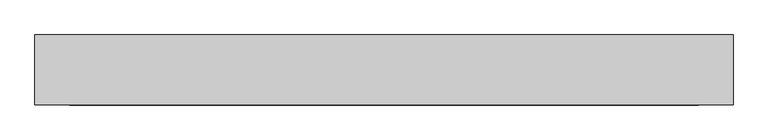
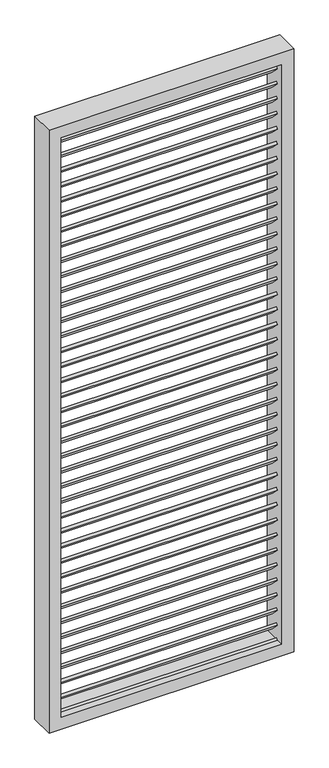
"""IFC4 building model written with IfcOpenShell, lengths in millimetres: plate geometry, 幕墙嵌板-百叶 : 幕墙嵌板-百叶."""

from ifc_helpers import new_model, si_unit, frame, origin, place, context, project, spatial, polyline, outline, extrude, source, transform, mapped, element, save


def plate_ee00122f(model_context):
    return source(origin(), model_context, "Body", "SweptSolid", [
        extrude(outline(polyline([(0.0, -50.0), (0.0, 0.0), (899.932207, 0.0), (899.932207, -50.0), (0.0, -50.0)])), frame((449.9661035, -21.2132034, 2514.2703408), z_axis=(0.0, 0.7071067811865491, 0.7071067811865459), x_axis=(-1.0, 0.0, 0.0)), (0.0, 0.0, 1.0), 10.0),
        extrude(outline(polyline([(0.0, -50.0), (0.0, 0.0), (899.932207, 0.0), (899.932207, -50.0), (0.0, -50.0)])), frame((449.9661035, -21.2132034, 2449.3985459), z_axis=(0.0, 0.7071067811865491, 0.7071067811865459), x_axis=(-1.0, 0.0, 0.0)), (0.0, 0.0, 1.0), 10.0),
        extrude(outline(polyline([(0.0, -50.0), (0.0, 0.0), (899.932207, 0.0), (899.932207, -50.0), (0.0, -50.0)])), frame((449.9661035, -21.2132034, 2384.526751), z_axis=(0.0, 0.7071067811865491, 0.7071067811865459), x_axis=(-1.0, 0.0, 0.0)), (0.0, 0.0, 1.0), 10.0),
        extrude(outline(polyline([(0.0, -49.9999999), (0.0, 0.0), (899.932207, 0.0), (899.932207, -49.9999999), (0.0, -49.9999999)])), frame((449.9661035, -21.2132034, 2319.6549561), z_axis=(0.0, 0.7071067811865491, 0.7071067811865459), x_axis=(-1.0, 0.0, 0.0)), (0.0, 0.0, 1.0), 10.0),
        extrude(outline(polyline([(0.0, -50.0), (0.0, 0.0), (899.932207, 0.0), (899.932207, -50.0), (0.0, -50.0)])), frame((449.9661035, -21.2132034, 2254.7831613), z_axis=(0.0, 0.7071067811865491, 0.7071067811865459), x_axis=(-1.0, 0.0, 0.0)), (0.0, 0.0, 1.0), 10.0),
        extrude(outline(polyline([(0.0, -50.0), (0.0, 0.0), (899.932207, 0.0), (899.932207, -50.0), (0.0, -50.0)])), frame((449.9661035, -21.2132034, 2189.9113664), z_axis=(0.0, 0.7071067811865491, 0.7071067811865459), x_axis=(-1.0, 0.0, 0.0)), (0.0, 0.0, 1.0), 10.0),
        extrude(outline(polyline([(0.0, -49.9999999), (0.0, 0.0), (899.932207, 0.0), (899.932207, -49.9999999), (0.0, -49.9999999)])), frame((449.9661035, -21.2132034, 2125.0395715), z_axis=(0.0, 0.7071067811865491, 0.7071067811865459), x_axis=(-1.0, 0.0, 0.0)), (0.0, 0.0, 1.0), 10.0),
        extrude(outline(polyline([(0.0, -49.9999999), (0.0, 0.0), (899.932207, 0.0), (899.932207, -49.9999999), (0.0, -49.9999999)])), frame((449.9661035, -21.2132034, 2060.1677766), z_axis=(0.0, 0.7071067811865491, 0.7071067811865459), x_axis=(-1.0, 0.0, 0.0)), (0.0, 0.0, 1.0), 10.0),
        extrude(outline(polyline([(0.0, -50.0), (0.0, 0.0), (899.932207, 0.0), (899.932207, -50.0), (0.0, -50.0)])), frame((449.9661035, -21.2132034, 1995.2959818), z_axis=(0.0, 0.7071067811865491, 0.7071067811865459), x_axis=(-1.0, 0.0, 0.0)), (0.0, 0.0, 1.0), 10.0),
        extrude(outline(polyline([(0.0, -50.0), (0.0, 0.0), (899.932207, 0.0), (899.932207, -50.0), (0.0, -50.0)])), frame((449.9661035, -21.2132034, 1930.4241869), z_axis=(0.0, 0.7071067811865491, 0.7071067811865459), x_axis=(-1.0, 0.0, 0.0)), (0.0, 0.0, 1.0), 10.0),
        extrude(outline(polyline([(0.0, -49.9999999), (0.0, 0.0), (899.932207, 0.0), (899.932207, -49.9999999), (0.0, -49.9999999)])), frame((449.9661035, -21.2132034, 1865.552392), z_axis=(0.0, 0.7071067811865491, 0.7071067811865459), x_axis=(-1.0, 0.0, 0.0)), (0.0, 0.0, 1.0), 10.0),
        extrude(outline(polyline([(0.0, -50.0), (0.0, 0.0), (899.932207, 0.0), (899.932207, -50.0), (0.0, -50.0)])), frame((449.9661035, -21.2132034, 1800.6805972), z_axis=(0.0, 0.7071067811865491, 0.7071067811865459), x_axis=(-1.0, 0.0, 0.0)), (0.0, 0.0, 1.0), 10.0),
        extrude(outline(polyline([(0.0, -50.0), (0.0, 0.0), (899.932207, 0.0), (899.932207, -50.0), (0.0, -50.0)])), frame((449.9661035, -21.2132034, 1735.8088023), z_axis=(0.0, 0.7071067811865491, 0.7071067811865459), x_axis=(-1.0, 0.0, 0.0)), (0.0, 0.0, 1.0), 10.0),
        extrude(outline(polyline([(0.0, -49.9999999), (0.0, 0.0), (899.932207, 0.0), (899.932207, -49.9999999), (0.0, -49.9999999)])), frame((449.9661035, -21.2132034, 1670.9370074), z_axis=(0.0, 0.7071067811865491, 0.7071067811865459), x_axis=(-1.0, 0.0, 0.0)), (0.0, 0.0, 1.0), 10.0),
        extrude(outline(polyline([(0.0, -49.9999999), (0.0, 0.0), (899.932207, 0.0), (899.932207, -49.9999999), (0.0, -49.9999999)])), frame((449.9661035, -21.2132034, 1606.0652125), z_axis=(0.0, 0.7071067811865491, 0.7071067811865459), x_axis=(-1.0, 0.0, 0.0)), (0.0, 0.0, 1.0), 10.0),
        extrude(outline(polyline([(0.0, -50.0), (0.0, 0.0), (899.932207, 0.0), (899.932207, -50.0), (0.0, -50.0)])), frame((449.9661035, -21.2132034, 1541.1934177), z_axis=(0.0, 0.7071067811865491, 0.7071067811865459), x_axis=(-1.0, 0.0, 0.0)), (0.0, 0.0, 1.0), 10.0),
        extrude(outline(polyline([(0.0, -50.0), (0.0, 0.0), (899.932207, 0.0), (899.932207, -50.0), (0.0, -50.0)])), frame((449.9661035, -21.2132034, 1476.3216228), z_axis=(0.0, 0.7071067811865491, 0.7071067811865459), x_axis=(-1.0, 0.0, 0.0)), (0.0, 0.0, 1.0), 10.0),
        extrude(outline(polyline([(0.0, -49.9999999), (0.0, 0.0), (899.932207, 0.0), (899.932207, -49.9999999), (0.0, -49.9999999)])), frame((449.9661035, -21.2132034, 1411.4498279), z_axis=(0.0, 0.7071067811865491, 0.7071067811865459), x_axis=(-1.0, 0.0, 0.0)), (0.0, 0.0, 1.0), 10.0),
        extrude(outline(polyline([(0.0, -50.0), (0.0, 0.0), (899.932207, 0.0), (899.932207, -50.0), (0.0, -50.0)])), frame((449.9661035, -21.2132034, 1346.5780331), z_axis=(0.0, 0.7071067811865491, 0.7071067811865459), x_axis=(-1.0, 0.0, 0.0)), (0.0, 0.0, 1.0), 10.0),
        extrude(outline(polyline([(0.0, -50.0), (0.0, 0.0), (899.932207, 0.0), (899.932207, -50.0), (0.0, -50.0)])), frame((449.9661035, -21.2132034, 1281.7062382), z_axis=(0.0, 0.7071067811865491, 0.7071067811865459), x_axis=(-1.0, 0.0, 0.0)), (0.0, 0.0, 1.0), 10.0),
        extrude(outline(polyline([(0.0, -49.9999999), (0.0, 0.0), (899.932207, 0.0), (899.932207, -49.9999999), (0.0, -49.9999999)])), frame((449.9661035, -21.2132034, 1216.8344433), z_axis=(0.0, 0.7071067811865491, 0.7071067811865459), x_axis=(-1.0, 0.0, 0.0)), (0.0, 0.0, 1.0), 10.0),
        extrude(outline(polyline([(0.0, -49.9999999), (0.0, 0.0), (899.932207, 0.0), (899.932207, -49.9999999), (0.0, -49.9999999)])), frame((449.9661035, -21.2132034, 1151.9626484), z_axis=(0.0, 0.7071067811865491, 0.7071067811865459), x_axis=(-1.0, 0.0, 0.0)), (0.0, 0.0, 1.0), 10.0),
        extrude(outline(polyline([(0.0, -50.0), (0.0, 0.0), (899.932207, 0.0), (899.932207, -50.0), (0.0, -50.0)])), frame((449.9661035, -21.2132034, 1087.0908536), z_axis=(0.0, 0.7071067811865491, 0.7071067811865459), x_axis=(-1.0, 0.0, 0.0)), (0.0, 0.0, 1.0), 10.0),
        extrude(outline(polyline([(0.0, -50.0), (0.0, 0.0), (899.932207, 0.0), (899.932207, -50.0), (0.0, -50.0)])), frame((449.9661035, -21.2132034, 1022.2190587), z_axis=(0.0, 0.7071067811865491, 0.7071067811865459), x_axis=(-1.0, 0.0, 0.0)), (0.0, 0.0, 1.0), 10.0),
        extrude(outline(polyline([(0.0, -49.9999999), (0.0, 0.0), (899.932207, 0.0), (899.932207, -49.9999999), (0.0, -49.9999999)])), frame((449.9661035, -21.2132034, 957.3472638), z_axis=(0.0, 0.7071067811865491, 0.7071067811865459), x_axis=(-1.0, 0.0, 0.0)), (0.0, 0.0, 1.0), 10.0),
        extrude(outline(polyline([(0.0, -50.0), (0.0, 0.0), (899.932207, 0.0), (899.932207, -50.0), (0.0, -50.0)])), frame((449.9661035, -21.2132034, 892.475469), z_axis=(0.0, 0.7071067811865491, 0.7071067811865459), x_axis=(-1.0, 0.0, 0.0)), (0.0, 0.0, 1.0), 10.0),
        extrude(outline(polyline([(0.0, -50.0), (0.0, 0.0), (899.932207, 0.0), (899.932207, -50.0), (0.0, -50.0)])), frame((449.9661035, -21.2132034, 827.6036741), z_axis=(0.0, 0.7071067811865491, 0.7071067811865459), x_axis=(-1.0, 0.0, 0.0)), (0.0, 0.0, 1.0), 10.0),
        extrude(outline(polyline([(0.0, -49.9999999), (0.0, 0.0), (899.932207, 0.0), (899.932207, -49.9999999), (0.0, -49.9999999)])), frame((449.9661035, -21.2132034, 762.7318792), z_axis=(0.0, 0.7071067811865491, 0.7071067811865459), x_axis=(-1.0, 0.0, 0.0)), (0.0, 0.0, 1.0), 10.0),
        extrude(outline(polyline([(0.0, -49.9999999), (0.0, 0.0), (899.932207, 0.0), (899.932207, -49.9999999), (0.0, -49.9999999)])), frame((449.9661035, -21.2132034, 697.8600843), z_axis=(0.0, 0.7071067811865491, 0.7071067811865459), x_axis=(-1.0, 0.0, 0.0)), (0.0, 0.0, 1.0), 10.0),
        extrude(outline(polyline([(0.0, -50.0), (0.0, 0.0), (899.932207, 0.0), (899.932207, -50.0), (0.0, -50.0)])), frame((449.9661035, -21.2132034, 632.9882895), z_axis=(0.0, 0.7071067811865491, 0.7071067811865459), x_axis=(-1.0, 0.0, 0.0)), (0.0, 0.0, 1.0), 10.0),
        extrude(outline(polyline([(0.0, -50.0), (0.0, 0.0), (899.932207, 0.0), (899.932207, -50.0), (0.0, -50.0)])), frame((449.9661035, -21.2132034, 568.1164946), z_axis=(0.0, 0.7071067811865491, 0.7071067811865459), x_axis=(-1.0, 0.0, 0.0)), (0.0, 0.0, 1.0), 10.0),
        extrude(outline(polyline([(0.0, -49.9999999), (0.0, 0.0), (899.932207, 0.0), (899.932207, -49.9999999), (0.0, -49.9999999)])), frame((449.9661035, -21.2132034, 503.2446997), z_axis=(0.0, 0.7071067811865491, 0.7071067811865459), x_axis=(-1.0, 0.0, 0.0)), (0.0, 0.0, 1.0), 10.0),
        extrude(outline(polyline([(0.0, -50.0), (0.0, 0.0), (899.932207, 0.0), (899.932207, -50.0), (0.0, -50.0)])), frame((449.9661035, -21.2132034, 438.3729049), z_axis=(0.0, 0.7071067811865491, 0.7071067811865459), x_axis=(-1.0, 0.0, 0.0)), (0.0, 0.0, 1.0), 10.0),
        extrude(outline(polyline([(0.0, -50.0), (0.0, 0.0), (899.932207, 0.0), (899.932207, -50.0), (0.0, -50.0)])), frame((449.9661035, -21.2132034, 373.50111), z_axis=(0.0, 0.7071067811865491, 0.7071067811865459), x_axis=(-1.0, 0.0, 0.0)), (0.0, 0.0, 1.0), 10.0),
        extrude(outline(polyline([(0.0, -49.9999999), (0.0, 0.0), (899.932207, 0.0), (899.932207, -49.9999999), (0.0, -49.9999999)])), frame((449.9661035, -21.2132034, 308.6293151), z_axis=(0.0, 0.7071067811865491, 0.7071067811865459), x_axis=(-1.0, 0.0, 0.0)), (0.0, 0.0, 1.0), 10.0),
        extrude(outline(polyline([(0.0, -49.9999999), (0.0, 0.0), (899.932207, 0.0), (899.932207, -49.9999999), (0.0, -49.9999999)])), frame((449.9661035, -21.2132034, 243.7575202), z_axis=(0.0, 0.7071067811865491, 0.7071067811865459), x_axis=(-1.0, 0.0, 0.0)), (0.0, 0.0, 1.0), 10.0),
        extrude(outline(polyline([(0.0, -50.0), (0.0, 0.0), (899.932207, 0.0), (899.932207, -50.0), (0.0, -50.0)])), frame((449.9661035, -21.2132034, 178.8857254), z_axis=(0.0, 0.7071067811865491, 0.7071067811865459), x_axis=(-1.0, 0.0, 0.0)), (0.0, 0.0, 1.0), 10.0),
        extrude(outline(polyline([(0.0, -50.0), (0.0, 0.0), (899.932207, 0.0), (899.932207, -50.0), (0.0, -50.0)])), frame((449.9661035, -21.2132034, 114.0139305), z_axis=(0.0, 0.7071067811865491, 0.7071067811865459), x_axis=(-1.0, 0.0, 0.0)), (0.0, 0.0, 1.0), 10.0),
        extrude(outline(polyline([(0.0, -49.9999999), (0.0, 0.0), (899.932207, 0.0), (899.932207, -49.9999999), (0.0, -49.9999999)])), frame((449.9661035, -21.2132034, 2579.1421356), z_axis=(0.0, 0.7071067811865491, 0.7071067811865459), x_axis=(-1.0, 0.0, 0.0)), (0.0, 0.0, 1.0), 10.0),
        extrude(outline(polyline([(0.0, -49.9999999), (0.0, 0.0), (899.932207, 0.0), (899.932207, -49.9999999), (0.0, -49.9999999)])), frame((449.9661035, -21.2132034, 49.1421356), z_axis=(0.0, 0.7071067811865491, 0.7071067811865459), x_axis=(-1.0, 0.0, 0.0)), (0.0, 0.0, 1.0), 10.0),
        extrude(outline(polyline([(0.0, -499.9661035), (0.0, 499.9661035), (2600.0, 499.9661035), (2600.0, -499.9661035), (0.0, -499.9661035)]), holes=[polyline([(2550.0, -449.9661035), (2550.0, 449.9661035), (50.0, 449.9661035), (50.0, -449.9661035), (2550.0, -449.9661035)])]), frame((0.0, -50.0, 0.0), z_axis=(0.0, 1.0, 0.0), x_axis=(0.0, 0.0, 1.0)), (0.0, 0.0, 1.0), 100.0),
    ])


if __name__ == "__main__":
    model = new_model("IFC4")
    model_context = context("Model", 3, world=origin())
    ifc_project = project(units=[si_unit("LENGTHUNIT", "METRE", prefix="MILLI")], contexts=[model_context])
    site = spatial("IfcSite", under=ifc_project)
    building = spatial("IfcBuilding", under=site)
    placement = place(None, origin())
    plate_shape = plate_ee00122f(model_context)
    element("IfcPlate", 1, ObjectType="幕墙嵌板-百叶 : 幕墙嵌板-百叶", at=placement, inside=building, context=model_context, shape_type="MappedRepresentation", body=[
        mapped(plate_shape, transform((0.0, 0.0, 0.0), x_axis=(1.0, 0.0, 0.0), y_axis=(0.0, 1.0, 0.0), z_axis=(0.0, 0.0, 1.0))),
    ])
    save(model, "model.ifc")
